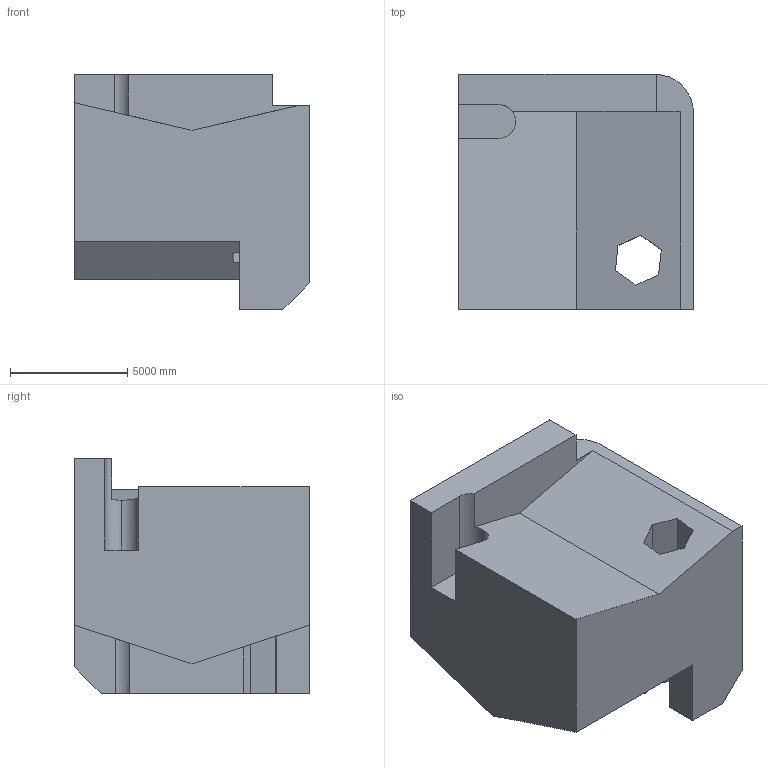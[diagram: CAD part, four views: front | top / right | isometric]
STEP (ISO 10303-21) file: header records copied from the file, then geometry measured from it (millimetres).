
FILE_DESCRIPTION (( 'STEP AP203' ), '1' );
FILE_NAME ('1793.STEP', '2022-08-19T12:56:04', ( 'user' ), ( '' ), 'SwSTEP 2.0', 'SolidWorks 2021', '' );
FILE_SCHEMA (( 'CONFIG_CONTROL_DESIGN' ));
Length unit declared in the file: centimetre
Products named in the file (1): 1793
Bounding box: 10000 x 10000 x 10000 mm (x, y, z)
Volume: 635749580156.8 mm3; surface area: 585925306.9 mm2
Topology: 1 solids, 1 shells, 33 faces, 95 edges, 63 vertices
Faces by surface type: plane 28, cylinder 4, cone 1
Entity records: 1155 total; most frequent: CARTESIAN_POINT 206, ORIENTED_EDGE 190, DIRECTION 169, EDGE_CURVE 95, VECTOR 81, LINE 81, VERTEX_POINT 63, AXIS2_PLACEMENT_3D 44
